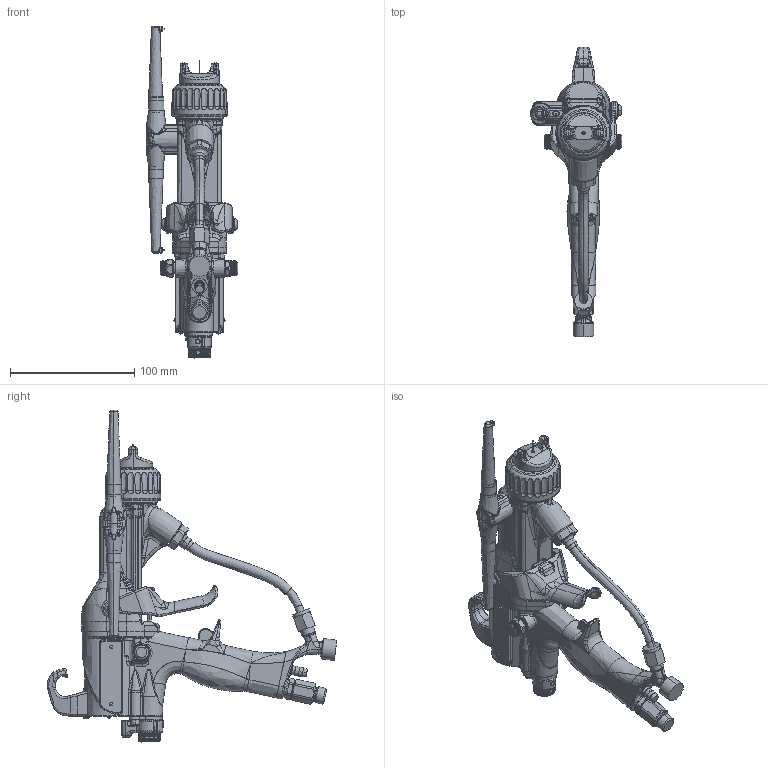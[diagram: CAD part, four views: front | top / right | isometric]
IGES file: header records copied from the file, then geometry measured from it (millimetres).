
Start section:  PTC IGES file: l40t28-en-g.igs
Global section: file name: l40t28-en-g.igs; native system: Creo Parametric by PTC Inc.; preprocessor: 2019030; author: qusrh3; organization: Unknown; date: 20200305.090551; units: inch
Bounding box: 73.96 x 233.22 x 267.38 mm (x, y, z)
Surface area: 99134.5 mm2 (no closed solid volume)
Topology: 0 solids, 0 shells, 2823 faces, 14382 edges, 14375 vertices
Faces by surface type: bspline 1480, revolution 1339, extrusion 4
